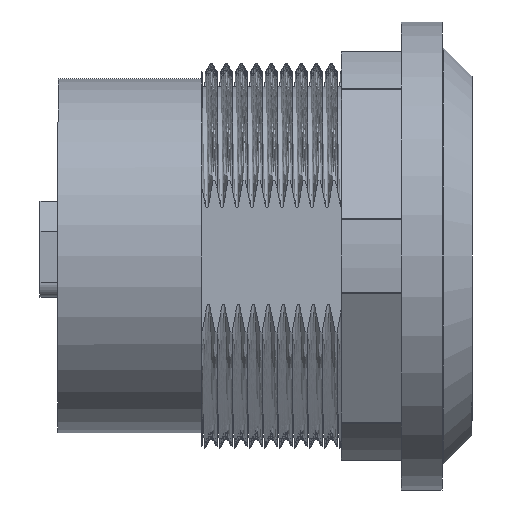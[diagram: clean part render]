
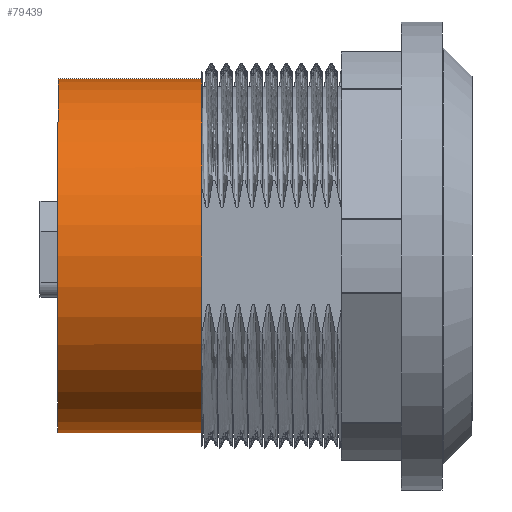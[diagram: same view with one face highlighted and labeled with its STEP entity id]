
A CAD part, left-side view. The second image highlights one B-rep face of the part: STEP entity #79439.
In plain terms, the highlighted cylindrical face has radius 11.8 mm (diameter 23.6 mm), a full revolution.
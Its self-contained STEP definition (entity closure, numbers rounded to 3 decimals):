
#79084 = EDGE_CURVE('',#79085,#79085,#79087,.T.);
#79085 = VERTEX_POINT('',#79086);
#79086 = CARTESIAN_POINT('',(11.8,20.6,0.));
#79087 = CIRCLE('',#79088,11.8);
#79088 = AXIS2_PLACEMENT_3D('',#79089,#79090,#79091);
#79089 = CARTESIAN_POINT('',(0.,20.6,0.));
#79090 = DIRECTION('',(-0.,1.,0.));
#79091 = DIRECTION('',(1.,0.,0.));
#79439 = ADVANCED_FACE('',(#79440),#79467,.T.);
#79440 = FACE_BOUND('',#79441,.F.);
#79441 = EDGE_LOOP('',(#79442,#79449,#79450,#79451,#79460));
#79442 = ORIENTED_EDGE('',*,*,#79443,.F.);
#79443 = EDGE_CURVE('',#79085,#79444,#79446,.T.);
#79444 = VERTEX_POINT('',#79445);
#79445 = CARTESIAN_POINT('',(11.8,11.,0.));
#79446 = B_SPLINE_CURVE_WITH_KNOTS('',1,(#79447,#79448),.UNSPECIFIED.,
  .F.,.F.,(2,2),(-24.6,1.),.PIECEWISE_BEZIER_KNOTS.);
#79447 = CARTESIAN_POINT('',(11.8,20.6,0.));
#79448 = CARTESIAN_POINT('',(11.8,-5.,0.));
#79449 = ORIENTED_EDGE('',*,*,#79084,.T.);
#79450 = ORIENTED_EDGE('',*,*,#79443,.T.);
#79451 = ORIENTED_EDGE('',*,*,#79452,.T.);
#79452 = EDGE_CURVE('',#79444,#79453,#79455,.T.);
#79453 = VERTEX_POINT('',#79454);
#79454 = CARTESIAN_POINT('',(-11.8,11.,0.));
#79455 = CIRCLE('',#79456,11.8);
#79456 = AXIS2_PLACEMENT_3D('',#79457,#79458,#79459);
#79457 = CARTESIAN_POINT('',(0.,11.,0.));
#79458 = DIRECTION('',(0.,-1.,0.));
#79459 = DIRECTION('',(1.,0.,0.));
#79460 = ORIENTED_EDGE('',*,*,#79461,.T.);
#79461 = EDGE_CURVE('',#79453,#79444,#79462,.T.);
#79462 = CIRCLE('',#79463,11.8);
#79463 = AXIS2_PLACEMENT_3D('',#79464,#79465,#79466);
#79464 = CARTESIAN_POINT('',(0.,11.,0.));
#79465 = DIRECTION('',(0.,-1.,0.));
#79466 = DIRECTION('',(1.,0.,0.));
#79467 = CYLINDRICAL_SURFACE('',#79468,11.8);
#79468 = AXIS2_PLACEMENT_3D('',#79469,#79470,#79471);
#79469 = CARTESIAN_POINT('',(0.,-4.,0.));
#79470 = DIRECTION('',(-0.,-1.,0.));
#79471 = DIRECTION('',(1.,0.,0.));
